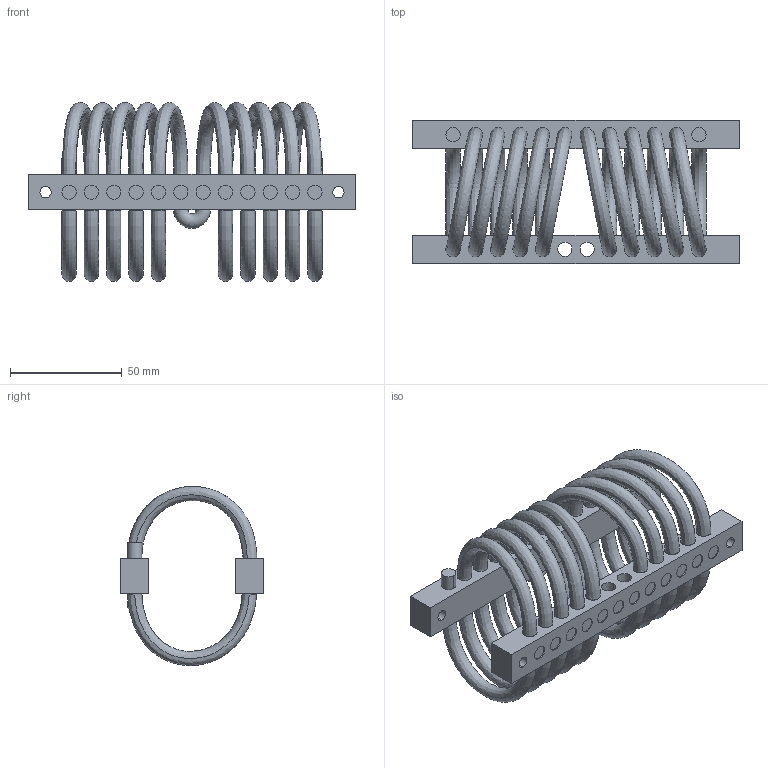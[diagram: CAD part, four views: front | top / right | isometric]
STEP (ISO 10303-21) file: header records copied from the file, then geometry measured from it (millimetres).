
FILE_DESCRIPTION (( 'STEP AP214' ), '1' );
FILE_NAME ('WR8-600-10DM.STEP', '2018-12-07T09:58:22', ( 'user' ), ( 'Microsoft' ), 'SwSTEP 2.0', 'SolidWorks 2016', '' );
FILE_SCHEMA (( 'AUTOMOTIVE_DESIGN' ));
Length unit declared in the file: millimetre
Products named in the file (1): WR8-600-10DM
Bounding box: 146.1 x 64 x 80.18 mm (x, y, z)
Volume: 113308 mm3; surface area: 68489.1 mm2
Topology: 25 solids, 25 shells, 316 faces, 682 edges, 440 vertices
Faces by surface type: cylinder 192, plane 82, bspline 40, torus 2
Entity records: 23410 total; most frequent: CARTESIAN_POINT 16179, DIRECTION 1422, ORIENTED_EDGE 1364, EDGE_CURVE 682, AXIS2_PLACEMENT_3D 603, VERTEX_POINT 440, EDGE_LOOP 396, CIRCLE 326
